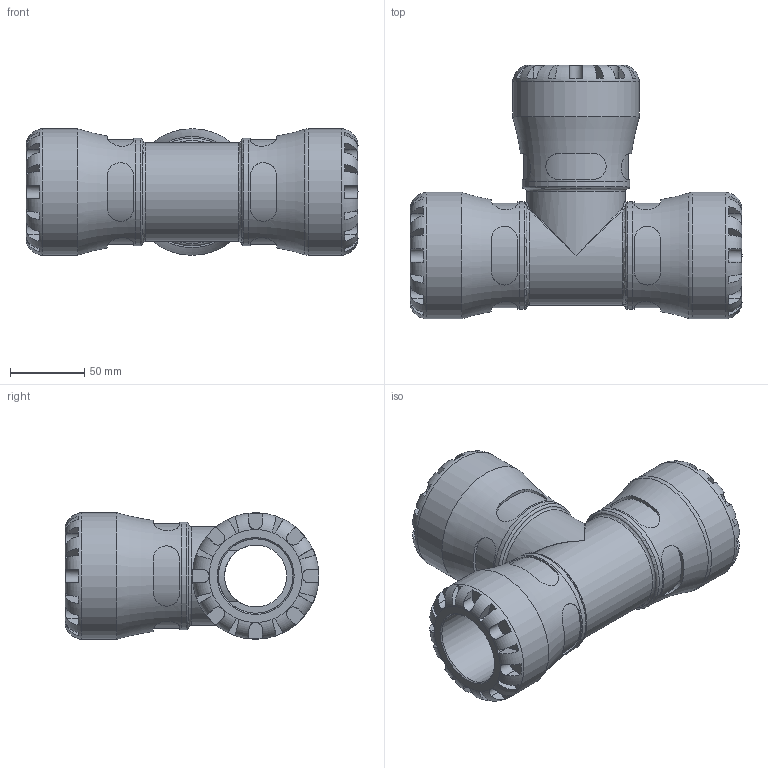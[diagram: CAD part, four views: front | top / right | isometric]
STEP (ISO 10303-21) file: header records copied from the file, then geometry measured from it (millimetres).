
FILE_DESCRIPTION(/* description */ ('PLASSON G-PLASS TEE 50X50X50'),/* implementation_level */ '2;1');
FILE_NAME(/* name */ 'C:\Dropbox\KIMPROJECTS-Inventor 2019\99-16-3568-Processing\S1\150400\stp\150400050.stp',/* time_stamp */ '2023-10-17T19:23:57+03:00',/* author */ ('KIM'),/* organization */ (''),/* preprocessor_version */ 'ST-DEVELOPER v17.2',/* originating_system */ 'Autodesk Inventor 2019',/* authorisation */ '');
FILE_SCHEMA (('AUTOMOTIVE_DESIGN { 1 0 10303 214 3 1 1 }'));
Length unit declared in the file: millimetre
Products named in the file (1): 150400050
Bounding box: 223 x 170.5 x 85 mm (x, y, z)
Volume: 839837.5 mm3; surface area: 142869.4 mm2
Topology: 1 solids, 1 shells, 298 faces, 795 edges, 505 vertices
Faces by surface type: plane 174, cylinder 99, torus 13, bspline 10, cone 2
Full cylindrical faces by diameter (mm): 41.667 x2, 50 x3, 66.3 x1, 72.25 x3, 85 x3
Entity records: 12722 total; most frequent: CARTESIAN_POINT 5224, ORIENTED_EDGE 1582, DIRECTION 1484, EDGE_CURVE 791, AXIS2_PLACEMENT_3D 613, VERTEX_POINT 505, CIRCLE 313, EDGE_LOOP 312
